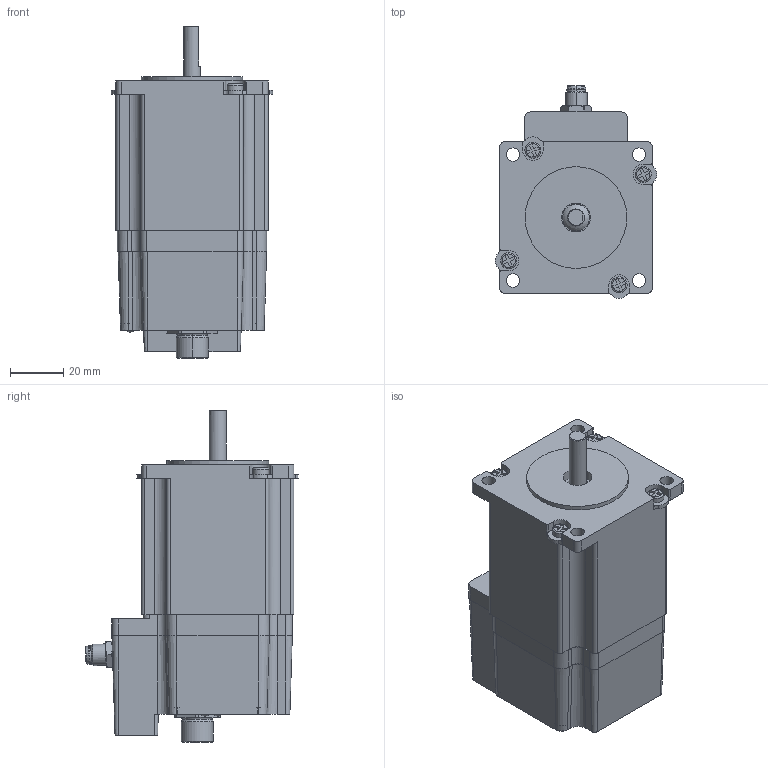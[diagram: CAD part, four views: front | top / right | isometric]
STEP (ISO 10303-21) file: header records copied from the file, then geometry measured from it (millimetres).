
FILE_DESCRIPTION(/* description */ ('Alibre Inc.'),/* implementation_level */ '2;1');
FILE_NAME(/* name */ 'export-1740C4C9-2571-4001-956F-00B38FF00A38',/* time_stamp */ '2025-12-10T14:11:20-05:00',/* author */ (''),/* organization */ (''),/* preprocessor_version */ 'ST-DEVELOPER v17',/* originating_system */ 'Alibre',/* authorisation */ '');
FILE_SCHEMA (('CONFIG_CONTROL_DESIGN'));
Length unit declared in the file: millimetre
Bounding box: 60.48 x 79.74 x 124.32 mm (x, y, z)
Volume: 281675.2 mm3; surface area: 38692.8 mm2
Topology: 1 solids, 27 shells, 742 faces, 1746 edges, 1126 vertices
Faces by surface type: plane 298, cylinder 275, bspline 64, cone 63, torus 34, sphere 8
Full cylindrical faces by diameter (mm): 1.1 x8, 1.5 x3, 2 x4, 2.156 x4, 2.87 x4, 2.92 x2, 3 x5, 3.556 x4, 5 x4, 5.44 x4, 6 x4, 6.35 x1, 7.938 x1, 8 x3, 10 x1, 10.795 x2, 12.7 x2, 23.495 x1, 26 x1, 38.1 x1
Entity records: 21392 total; most frequent: CARTESIAN_POINT 5222, ORIENTED_EDGE 3268, DIRECTION 3097, EDGE_CURVE 1634, AXIS2_PLACEMENT_3D 1317, VERTEX_POINT 1098, EDGE_LOOP 920, FACE_BOUND 920
